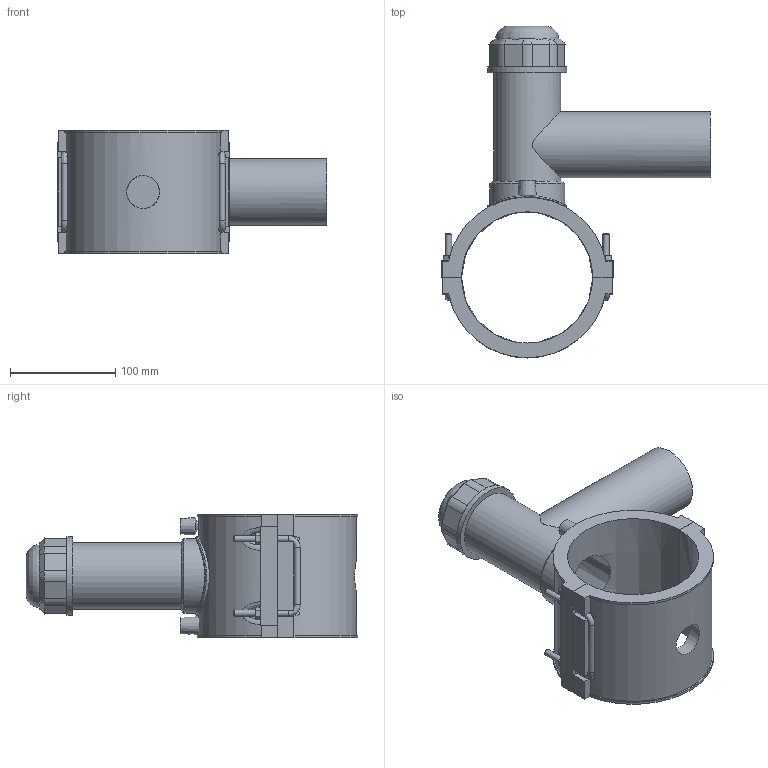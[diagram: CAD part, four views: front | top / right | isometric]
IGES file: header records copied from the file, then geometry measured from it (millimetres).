
Global section: file name: 496304125063.ipt; native system: Autodesk Inventor 2015; preprocessor: unknown; author: KIM; date: 20190124.130936; units: millimetre
Bounding box: 257 x 316 x 118 mm (x, y, z)
Volume: 1119399 mm3; surface area: 244598.7 mm2
Topology: 2 solids, 4 shells, 211 faces, 534 edges, 347 vertices
Faces by surface type: plane 126, cylinder 37, revolution 28, cone 15, bspline 5
Full cylindrical faces by diameter (mm): 4 x2, 6 x8, 63 x1, 63.75 x1, 71.25 x1, 75 x2
